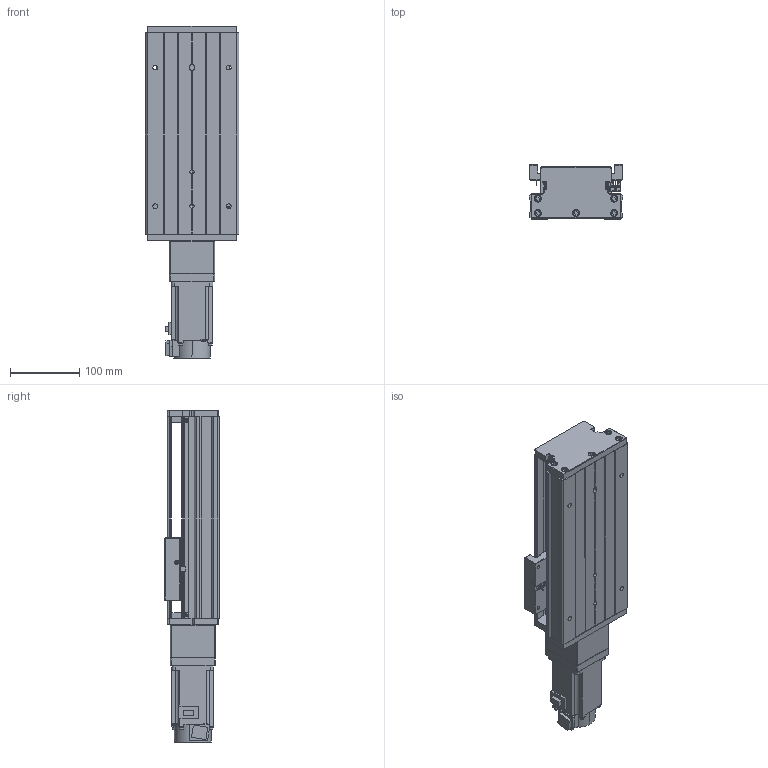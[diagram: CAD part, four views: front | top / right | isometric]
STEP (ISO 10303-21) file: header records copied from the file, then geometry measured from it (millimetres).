
FILE_DESCRIPTION (( 'STEP AP203' ), '1' );
FILE_NAME ('KTH130-150-BC-M40-C4.step', '2023-06-30T03:53:16', ( '微软用户' ), ( '微软中国' ), 'SwSTEP 2.0', 'SolidWorks 2020', '' );
FILE_SCHEMA (( 'CONFIG_CONTROL_DESIGN' ));
Length unit declared in the file: millimetre
Products named in the file (19): GB1155-6X6; GBT77-2000 M3×3; CTHA86-027-1; GBT70.1 M5℅16; す晦芛蹟隊 M3℅5; HG-KN43J-S100; GBT 70.2-M3¡Á5_M3¡Á6; GBT 70.3-M3℅8; KTH130-150-BC-M40-C4; GTH14-001_150; CTHA60-017; KTH130-002_KTH130-002; EE_SX911P_R; KTH130-004; CTHA60-016; CTHA86-006-1_M40; KTH130-005; GBT 70.1-M3℅5; CTHA86-013
Assembly tree (52 placements, depth 2):
  KTH130-150-BC-M40-C4
    GTH14-001_150
    KTH130-002_KTH130-002
    KTH130-004
    KTH130-005
    GB1155-6X6  x2
    GBT70.1 M5℅16  x10
    GBT 70.2-M3¡Á5_M3¡Á6  x4
    CTHA60-017  x3
    EE_SX911P_R  x3
    CTHA60-016  x2
    GBT 70.1-M3℅5  x6
    GBT77-2000 M3×3  x6
    す晦芛蹟隊 M3℅5  x2
    GBT 70.3-M3℅8  x6
    CTHA86-006-1_M40
    CTHA86-013
    CTHA86-027-1
    HG-KN43J-S100
Bounding box: 135 x 78 x 478.7 mm (x, y, z)
Volume: 2422383 mm3; surface area: 402481.2 mm2
Topology: 55 solids, 55 shells, 2152 faces, 5206 edges, 3246 vertices
Faces by surface type: plane 1188, cylinder 576, cone 280, torus 96, sphere 12
Entity records: 38958 total; most frequent: CARTESIAN_POINT 8326, DIRECTION 5745, ORIENTED_EDGE 5696, EDGE_CURVE 2848, AXIS2_PLACEMENT_3D 1939, LINE 1867, VECTOR 1867, VERTEX_POINT 1818
